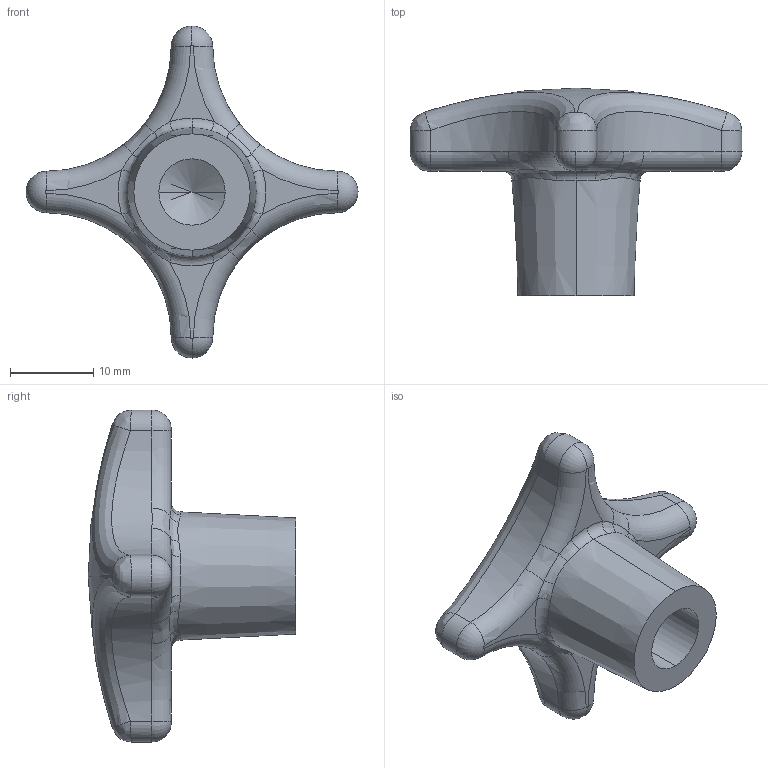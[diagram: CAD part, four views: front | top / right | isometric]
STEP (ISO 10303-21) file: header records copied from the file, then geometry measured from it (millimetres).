
FILE_DESCRIPTION (( 'STEP AP203' ), '1' );
FILE_NAME ('70040.W0640.step', '2019-01-26T19:32:19', ( '' ), ( '' ), 'SwSTEP 2.0', 'SolidWorks 2017', '' );
FILE_SCHEMA (( 'CONFIG_CONTROL_DESIGN' ));
Length unit declared in the file: millimetre
Products named in the file (1): 70040.W0640
Bounding box: 40 x 25 x 40 mm (x, y, z)
Volume: 6394.1 mm3; surface area: 3022.4 mm2
Topology: 1 solids, 1 shells, 65 faces, 156 edges, 92 vertices
Faces by surface type: bspline 24, torus 19, cylinder 11, plane 5, cone 4, sphere 2
Entity records: 3370 total; most frequent: CARTESIAN_POINT 1911, ORIENTED_EDGE 308, DIRECTION 283, EDGE_CURVE 154, AXIS2_PLACEMENT_3D 134, CIRCLE 92, VERTEX_POINT 92, EDGE_LOOP 66
